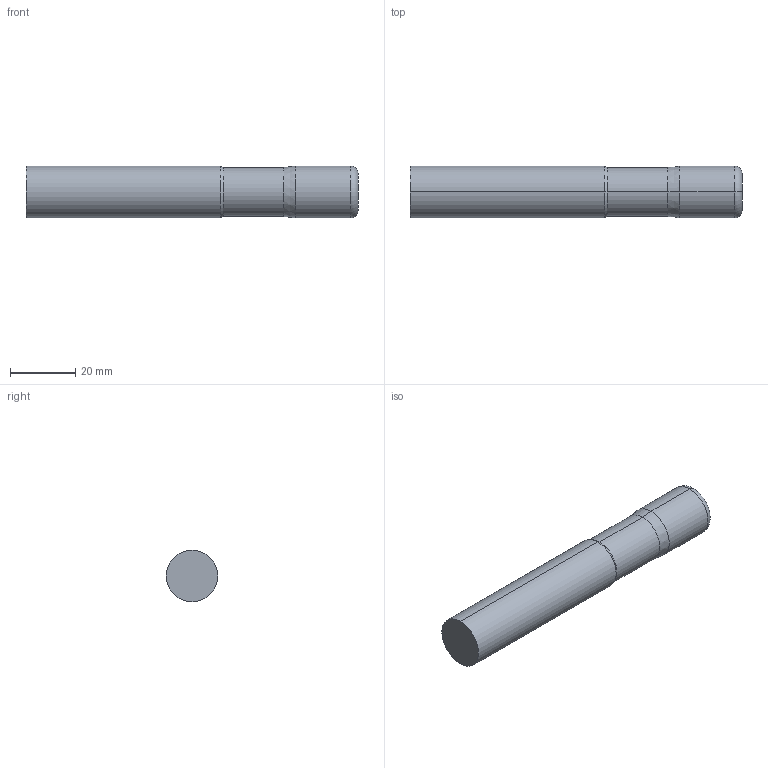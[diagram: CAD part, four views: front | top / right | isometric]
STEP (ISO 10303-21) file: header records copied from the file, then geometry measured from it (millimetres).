
FILE_DESCRIPTION (( 'STEP AP214' ), '1' );
FILE_NAME ('SSIRN50625-090.STEP', '2025-05-27T20:42:00', ( '' ), ( '' ), 'SwSTEP 2.0', 'SolidWorks 2023', '' );
FILE_SCHEMA (( 'AUTOMOTIVE_DESIGN' ));
Length unit declared in the file: inch
Products named in the file (3): SSI5 Imperial LOC ONLY_SSIRN50625-090; SSIRN50625-090; SSI5 Imperial SHANK ONLY_SSIRN50625-090
Assembly tree (2 placements, depth 2):
  SSIRN50625-090
    SSI5 Imperial LOC ONLY_SSIRN50625-090
    SSI5 Imperial SHANK ONLY_SSIRN50625-090
Bounding box: 101.6 x 15.88 x 15.88 mm (x, y, z)
Volume: 19609 mm3; surface area: 5756.5 mm2
Topology: 2 solids, 2 shells, 16 faces, 28 edges, 16 vertices
Faces by surface type: cylinder 6, plane 4, cone 4, torus 2
Entity records: 562 total; most frequent: DIRECTION 88, CARTESIAN_POINT 65, ORIENTED_EDGE 56, AXIS2_PLACEMENT_3D 39, EDGE_CURVE 28, CIRCLE 18, EDGE_LOOP 16, ADVANCED_FACE 16
